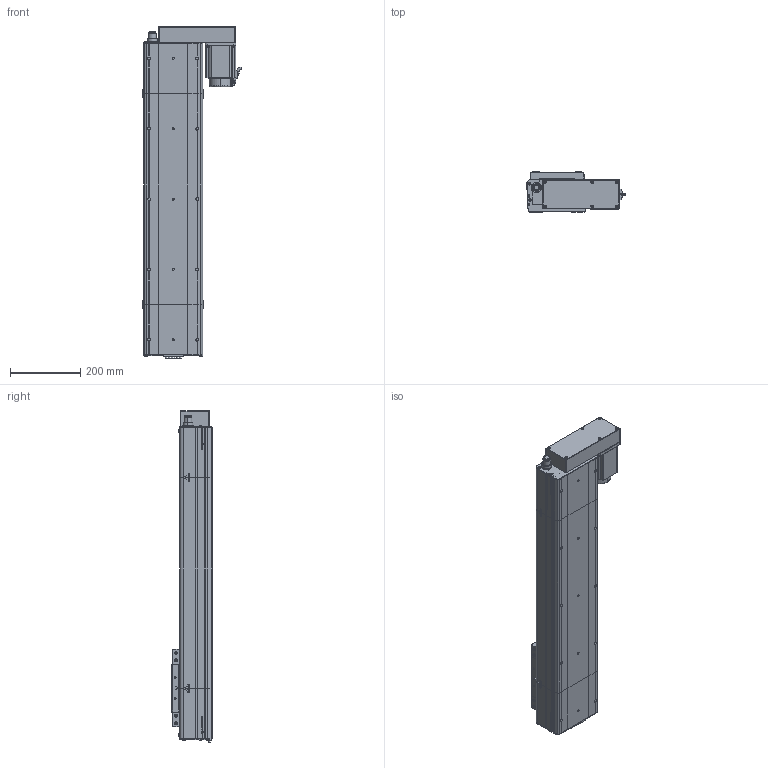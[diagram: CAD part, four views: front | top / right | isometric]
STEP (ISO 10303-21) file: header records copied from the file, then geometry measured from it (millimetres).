
FILE_DESCRIPTION (( 'STEP AP214' ), '1' );
FILE_NAME ('D17 CSH BL S600.STEP', '2010-06-29T14:02:47', ( 'Christophe Gaillard' ), ( 'SGA' ), 'SwSTEP 2.0', 'SolidWorks 2010', '' );
FILE_SCHEMA (( 'AUTOMOTIVE_DESIGN' ));
Length unit declared in the file: millimetre
Products named in the file (29): chariot D17_Default; vis M5 L47_Default; codeur 90BLDC100-640; Moteur motionking 90BLDC100A-640; Conecteur2_Default; avant 90BLDC100A-640; vis M5 L60_Default; Conecteur_Default; corps 90BLDC100A-640; support chariot D17_Default; Tail D17_Default; plaque de serrage D17_Default; Corp D17 S600_Default; Plaque de bout D17_Default; Corp Tail D17_Default; couvercle D17_Default; glissiere_Default; couvercle D17-600_Default; Corp L600_Default; ecrou_Default; Chariot D17_Default; vis M5 L15_Default; Plaque de bout D17 head BL_Default; Corp Head  D17 BL_Default; couvercle D17 head BL_Default; Head D17 BL_Default; D17 CSH BL S600; Support Moteur BL_Default; plaque de serrage D17 head BL_Default
Assembly tree (52 placements, depth 4):
  D17 CSH BL S600
    Tail D17_Default
      vis M5 L15_Default  x6
      couvercle D17_Default
      Plaque de bout D17_Default
      plaque de serrage D17_Default
      Corp Tail D17_Default
    Head D17 BL_Default
      ecrou_Default  x4
      Corp Head  D17 BL_Default
      Support Moteur BL_Default
      vis M5 L60_Default  x4
      vis M5 L47_Default  x2
      couvercle D17 head BL_Default
      vis M5 L15_Default  x4
      plaque de serrage D17 head BL_Default
      Moteur motionking 90BLDC100A-640
        corps 90BLDC100A-640
        Conecteur2_Default
        avant 90BLDC100A-640
        codeur 90BLDC100-640
        Conecteur_Default
      Plaque de bout D17 head BL_Default
    Chariot D17_Default
      vis M5 L15_Default  x8
      glissiere_Default
      chariot D17_Default
      support chariot D17_Default
    Corp D17 S600_Default
      couvercle D17-600_Default
      Corp L600_Default
Bounding box: 279.16 x 114 x 944.2 mm (x, y, z)
Volume: 7341662.1 mm3; surface area: 1322796.8 mm2
Topology: 89 solids, 89 shells, 3161 faces, 7954 edges, 5186 vertices
Faces by surface type: plane 1874, bspline 758, cylinder 410, torus 67, cone 48, sphere 4
Entity records: 148318 total; most frequent: CARTESIAN_POINT 80963, ORIENTED_EDGE 13448, DIRECTION 9704, EDGE_CURVE 6724, LINE 4554, VECTOR 4554, VERTEX_POINT 4454, EDGE_LOOP 2858
